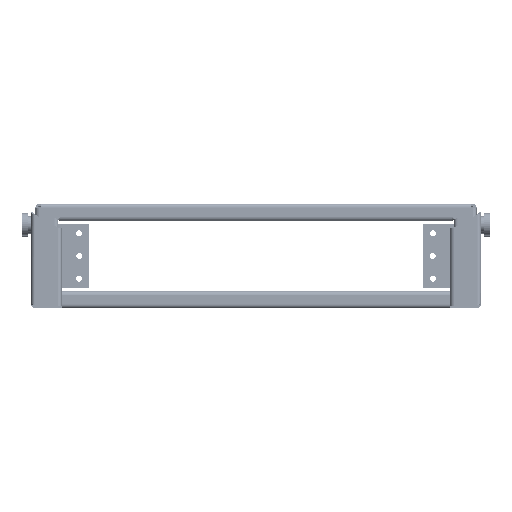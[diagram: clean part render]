
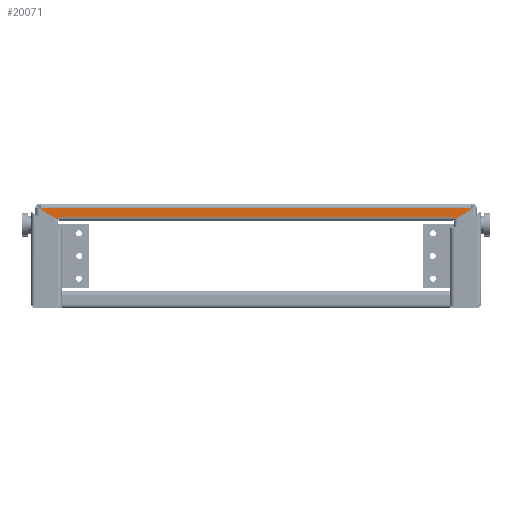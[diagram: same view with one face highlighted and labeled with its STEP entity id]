
A CAD part, front view. The second image highlights one B-rep face of the part: STEP entity #20071.
In plain terms, the highlighted planar face has unit normal (0, -1, 0) as drawn and (0, 0, 1) by its records, which use the part's own axes.
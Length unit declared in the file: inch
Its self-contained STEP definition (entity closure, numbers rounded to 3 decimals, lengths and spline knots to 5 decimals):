
#7016=DIRECTION('',(-1.,0.,0.));
#7017=VECTOR('',#7016,11.814);
#7018=CARTESIAN_POINT('',(5.907,-0.049,7.));
#7019=LINE('',#7018,#7017);
#7034=DIRECTION('',(1.,0.,0.));
#7035=VECTOR('',#7034,0.015);
#7036=CARTESIAN_POINT('',(5.391,-0.2995,7.));
#7037=LINE('',#7036,#7035);
#7038=DIRECTION('',(-1.,0.,0.));
#7039=VECTOR('',#7038,0.015);
#7040=CARTESIAN_POINT('',(-5.391,-0.2995,7.));
#7041=LINE('',#7040,#7039);
#7042=DIRECTION('',(0.707,0.707,0.));
#7043=VECTOR('',#7042,0.08996);
#7044=CARTESIAN_POINT('',(-5.46961,-0.36311,7.));
#7045=LINE('',#7044,#7043);
#7046=DIRECTION('',(0.866,-0.5,0.));
#7047=VECTOR('',#7046,0.50505);
#7048=CARTESIAN_POINT('',(-5.907,-0.11059,7.));
#7049=LINE('',#7048,#7047);
#7050=DIRECTION('',(0.,-1.,0.));
#7051=VECTOR('',#7050,0.06159);
#7052=CARTESIAN_POINT('',(-5.907,-0.049,7.));
#7053=LINE('',#7052,#7051);
#7054=DIRECTION('',(0.,1.,0.));
#7055=VECTOR('',#7054,0.06159);
#7056=CARTESIAN_POINT('',(5.907,-0.11059,7.));
#7057=LINE('',#7056,#7055);
#7058=DIRECTION('',(0.866,0.5,0.));
#7059=VECTOR('',#7058,0.50505);
#7060=CARTESIAN_POINT('',(5.46961,-0.36311,7.));
#7061=LINE('',#7060,#7059);
#7062=DIRECTION('',(-0.707,0.707,0.));
#7063=VECTOR('',#7062,0.08996);
#7064=CARTESIAN_POINT('',(5.46961,-0.36311,7.));
#7065=LINE('',#7064,#7063);
#7095=DIRECTION('',(-1.,0.,0.));
#7096=VECTOR('',#7095,10.782);
#7097=CARTESIAN_POINT('',(5.391,-0.2995,7.));
#7098=LINE('',#7097,#7096);
#7950=CARTESIAN_POINT('',(-5.907,-0.049,7.));
#7951=CARTESIAN_POINT('',(-5.907,-0.11059,7.));
#7952=VERTEX_POINT('',#7950);
#7953=VERTEX_POINT('',#7951);
#7954=CARTESIAN_POINT('',(5.907,-0.11059,7.));
#7955=CARTESIAN_POINT('',(5.907,-0.049,7.));
#7956=VERTEX_POINT('',#7954);
#7957=VERTEX_POINT('',#7955);
#9858=CARTESIAN_POINT('',(-5.391,-0.2995,7.));
#9859=CARTESIAN_POINT('',(-5.406,-0.2995,7.));
#9860=VERTEX_POINT('',#9858);
#9861=VERTEX_POINT('',#9859);
#9862=CARTESIAN_POINT('',(-5.46961,-0.36311,7.));
#9863=VERTEX_POINT('',#9862);
#9870=CARTESIAN_POINT('',(5.391,-0.2995,7.));
#9871=CARTESIAN_POINT('',(5.406,-0.2995,7.));
#9872=VERTEX_POINT('',#9870);
#9873=VERTEX_POINT('',#9871);
#9874=CARTESIAN_POINT('',(5.46961,-0.36311,7.));
#9875=VERTEX_POINT('',#9874);
#20045=CARTESIAN_POINT('',(-3.09999,0.06,7.));
#20046=DIRECTION('',(0.,0.,1.));
#20047=DIRECTION('',(-1.,0.,0.));
#20048=AXIS2_PLACEMENT_3D('',#20045,#20046,#20047);
#20049=PLANE('',#20048);
#20051=ORIENTED_EDGE('',*,*,#20050,.F.);
#20053=ORIENTED_EDGE('',*,*,#20052,.T.);
#20055=ORIENTED_EDGE('',*,*,#20054,.T.);
#20057=ORIENTED_EDGE('',*,*,#20056,.F.);
#20059=ORIENTED_EDGE('',*,*,#20058,.F.);
#20061=ORIENTED_EDGE('',*,*,#20060,.F.);
#20062=ORIENTED_EDGE('',*,*,#20035,.F.);
#20064=ORIENTED_EDGE('',*,*,#20063,.F.);
#20066=ORIENTED_EDGE('',*,*,#20065,.F.);
#20068=ORIENTED_EDGE('',*,*,#20067,.T.);
#20069=EDGE_LOOP('',(#20051,#20053,#20055,#20057,#20059,#20061,#20062,#20064,
#20066,#20068));
#20070=FACE_OUTER_BOUND('',#20069,.F.);
#20071=ADVANCED_FACE('',(#20070),#20049,.T.);
#20035=EDGE_CURVE('',#7957,#7952,#7019,.T.);
#20050=EDGE_CURVE('',#9872,#9873,#7037,.T.);
#20052=EDGE_CURVE('',#9872,#9860,#7098,.T.);
#20054=EDGE_CURVE('',#9860,#9861,#7041,.T.);
#20056=EDGE_CURVE('',#9863,#9861,#7045,.T.);
#20058=EDGE_CURVE('',#7953,#9863,#7049,.T.);
#20060=EDGE_CURVE('',#7952,#7953,#7053,.T.);
#20063=EDGE_CURVE('',#7956,#7957,#7057,.T.);
#20065=EDGE_CURVE('',#9875,#7956,#7061,.T.);
#20067=EDGE_CURVE('',#9875,#9873,#7065,.T.);
